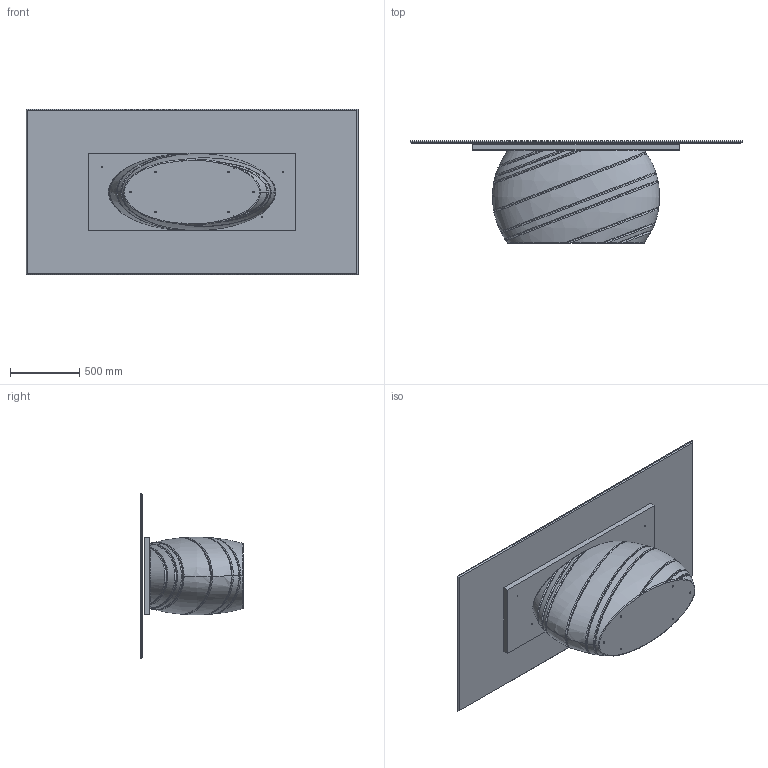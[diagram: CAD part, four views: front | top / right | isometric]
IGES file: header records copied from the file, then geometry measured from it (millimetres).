
Start section: SolidWorks IGES file using analytic representation for surfaces
Global section: file name: Y:\eforma\TECNICO\SOLIDWORKS\E-FORMA\1-TAVOLI\GIOVE\08 modelli 3D web\cer 239x119.IGS; native system: SolidWorks 2022; preprocessor: SolidWorks 2022; author: eforma.tech; date: 250526.160139; units: millimetre
Bounding box: 2390 x 738 x 1190 mm (x, y, z)
Volume: 395366981 mm3; surface area: 10381232.9 mm2
Topology: 3 solids, 3 shells, 160 faces, 389 edges, 250 vertices
Faces by surface type: revolution 68, bspline 53, plane 39
